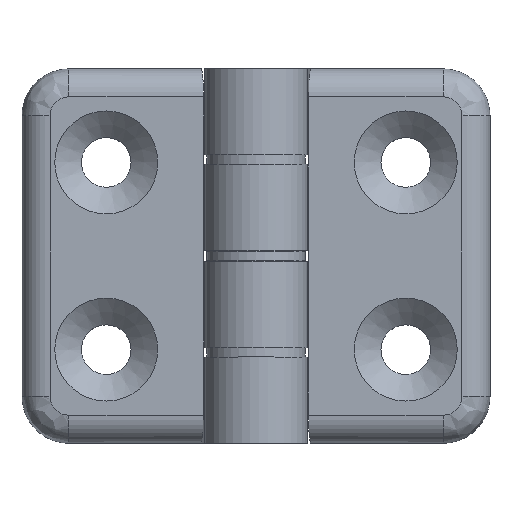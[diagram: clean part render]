
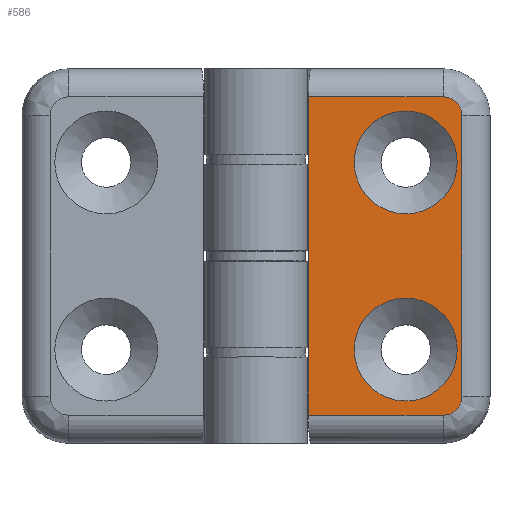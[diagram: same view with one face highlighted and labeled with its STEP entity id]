
A CAD part, top view. The second image highlights one B-rep face of the part: STEP entity #586.
In plain terms, the highlighted planar face has unit normal (0, 0, 1).
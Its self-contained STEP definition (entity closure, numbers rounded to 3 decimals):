
#52=PLANE('',#643);
#69=LINE('',#911,#106);
#70=LINE('',#930,#107);
#72=LINE('',#950,#109);
#81=LINE('',#972,#118);
#85=LINE('',#980,#122);
#90=LINE('',#989,#127);
#91=LINE('',#990,#128);
#106=VECTOR('',#720,14.392);
#107=VECTOR('',#731,30.);
#109=VECTOR('',#743,14.392);
#118=VECTOR('',#766,7.2);
#122=VECTOR('',#770,11.4);
#127=VECTOR('',#777,6.2);
#128=VECTOR('',#778,9.2);
#162=FACE_BOUND('',#235,.T.);
#163=FACE_BOUND('',#236,.T.);
#193=FACE_OUTER_BOUND('',#234,.T.);
#234=EDGE_LOOP('',(#483,#484,#485,#486,#487,#488,#489,#490,#491));
#235=EDGE_LOOP('',(#492));
#236=EDGE_LOOP('',(#493));
#274=CIRCLE('',#614,5.5);
#277=CIRCLE('',#619,5.5);
#282=CIRCLE('',#627,2.);
#286=CIRCLE('',#632,2.);
#306=VERTEX_POINT('',#888);
#309=VERTEX_POINT('',#896);
#312=VERTEX_POINT('',#904);
#315=VERTEX_POINT('',#909);
#317=VERTEX_POINT('',#922);
#319=VERTEX_POINT('',#928);
#321=VERTEX_POINT('',#942);
#323=VERTEX_POINT('',#948);
#329=VERTEX_POINT('',#971);
#332=VERTEX_POINT('',#977);
#333=VERTEX_POINT('',#979);
#357=EDGE_CURVE('',#306,#306,#274,.T.);
#360=EDGE_CURVE('',#309,#309,#277,.T.);
#366=EDGE_CURVE('',#315,#312,#69,.T.);
#368=EDGE_CURVE('',#317,#315,#282,.T.);
#371=EDGE_CURVE('',#319,#317,#70,.T.);
#374=EDGE_CURVE('',#321,#319,#286,.T.);
#377=EDGE_CURVE('',#323,#321,#72,.T.);
#388=EDGE_CURVE('',#312,#329,#81,.T.);
#392=EDGE_CURVE('',#332,#333,#85,.T.);
#397=EDGE_CURVE('',#333,#323,#90,.T.);
#398=EDGE_CURVE('',#329,#332,#91,.T.);
#483=ORIENTED_EDGE('',*,*,#377,.F.);
#484=ORIENTED_EDGE('',*,*,#397,.F.);
#485=ORIENTED_EDGE('',*,*,#392,.F.);
#486=ORIENTED_EDGE('',*,*,#398,.F.);
#487=ORIENTED_EDGE('',*,*,#388,.F.);
#488=ORIENTED_EDGE('',*,*,#366,.F.);
#489=ORIENTED_EDGE('',*,*,#368,.F.);
#490=ORIENTED_EDGE('',*,*,#371,.F.);
#491=ORIENTED_EDGE('',*,*,#374,.F.);
#492=ORIENTED_EDGE('',*,*,#357,.T.);
#493=ORIENTED_EDGE('',*,*,#360,.T.);
#586=ADVANCED_FACE('',(#193,#162,#163),#52,.T.);
#614=AXIS2_PLACEMENT_3D('',#889,#695,#696);
#619=AXIS2_PLACEMENT_3D('',#897,#705,#706);
#627=AXIS2_PLACEMENT_3D('',#924,#723,#724);
#632=AXIS2_PLACEMENT_3D('',#944,#735,#736);
#643=AXIS2_PLACEMENT_3D('',#988,#775,#776);
#695=DIRECTION('center_axis',(0.,0.,-1.));
#696=DIRECTION('ref_axis',(1.,0.,0.));
#705=DIRECTION('center_axis',(0.,0.,-1.));
#706=DIRECTION('ref_axis',(1.,0.,0.));
#720=DIRECTION('',(-1.,0.,0.));
#723=DIRECTION('center_axis',(0.,0.,-1.));
#724=DIRECTION('ref_axis',(0.707,-0.707,0.));
#731=DIRECTION('',(0.,-1.,0.));
#735=DIRECTION('center_axis',(0.,0.,-1.));
#736=DIRECTION('ref_axis',(0.707,0.707,0.));
#743=DIRECTION('',(1.,0.,0.));
#766=DIRECTION('',(0.,1.,0.));
#770=DIRECTION('',(0.,1.,0.));
#775=DIRECTION('center_axis',(0.,0.,1.));
#776=DIRECTION('ref_axis',(0.,1.,0.));
#777=DIRECTION('',(0.,1.,0.));
#778=DIRECTION('',(0.,1.,0.));
#888=CARTESIAN_POINT('',(15.5,30.,5.));
#889=CARTESIAN_POINT('Origin',(10.,30.,5.));
#896=CARTESIAN_POINT('',(15.5,10.,5.));
#897=CARTESIAN_POINT('Origin',(10.,10.,5.));
#904=CARTESIAN_POINT('',(-0.392,3.,5.));
#909=CARTESIAN_POINT('',(14.,3.,5.));
#911=CARTESIAN_POINT('',(19.,3.,5.));
#922=CARTESIAN_POINT('',(16.,5.,5.));
#924=CARTESIAN_POINT('Origin',(14.,5.,5.));
#928=CARTESIAN_POINT('',(16.,35.,5.));
#930=CARTESIAN_POINT('',(16.,10.,5.));
#942=CARTESIAN_POINT('',(14.,37.,5.));
#944=CARTESIAN_POINT('Origin',(14.,35.,5.));
#948=CARTESIAN_POINT('',(-0.392,37.,5.));
#950=CARTESIAN_POINT('',(6.947,37.,5.));
#971=CARTESIAN_POINT('',(-0.392,10.2,5.));
#972=CARTESIAN_POINT('',(-0.392,10.,5.));
#977=CARTESIAN_POINT('',(-0.392,19.4,5.));
#979=CARTESIAN_POINT('',(-0.392,30.8,5.));
#980=CARTESIAN_POINT('',(-0.392,10.,5.));
#988=CARTESIAN_POINT('Origin',(19.,0.,5.));
#989=CARTESIAN_POINT('',(-0.392,0.,5.));
#990=CARTESIAN_POINT('',(-0.392,0.,5.));
